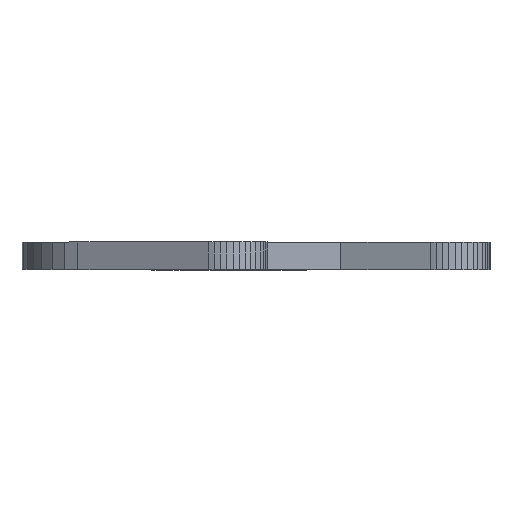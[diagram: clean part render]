
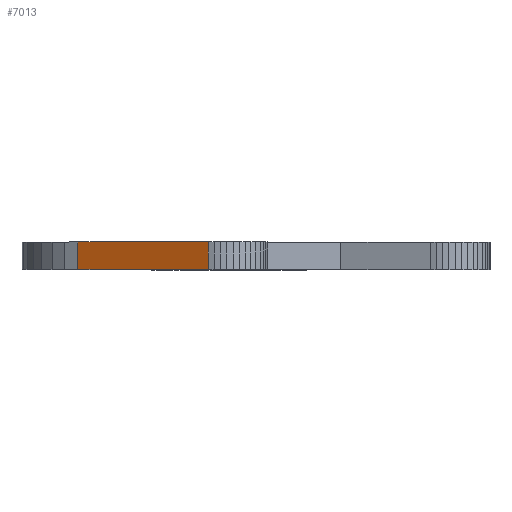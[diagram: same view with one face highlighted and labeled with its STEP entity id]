
A CAD part, top view. The second image highlights one B-rep face of the part: STEP entity #7013.
In plain terms, the highlighted planar face has unit normal (-0.484, 0, 0.875).
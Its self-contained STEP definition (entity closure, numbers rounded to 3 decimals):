
#32 = PLANE('',#33);
#33 = AXIS2_PLACEMENT_3D('',#34,#35,#36);
#34 = CARTESIAN_POINT('',(155.519,76.,-140.029));
#35 = DIRECTION('',(-0.,-1.,-0.));
#36 = DIRECTION('',(0.,0.,-1.));
#1037 = VERTEX_POINT('',#1038);
#1038 = CARTESIAN_POINT('',(154.552,76.,-69.308));
#1052 = PLANE('',#1053);
#1053 = AXIS2_PLACEMENT_3D('',#1054,#1055,#1056);
#1054 = CARTESIAN_POINT('',(156.292,76.,-68.587));
#1055 = DIRECTION('',(-0.383,0.,0.924));
#1056 = DIRECTION('',(-0.924,0.,-0.383));
#1064 = EDGE_CURVE('',#1037,#1065,#1067,.T.);
#1065 = VERTEX_POINT('',#1066);
#1066 = CARTESIAN_POINT('',(116.431,76.,-90.368));
#1067 = SURFACE_CURVE('',#1068,(#1072,#1079),.PCURVE_S1.);
#1068 = LINE('',#1069,#1070);
#1069 = CARTESIAN_POINT('',(154.552,76.,-69.308));
#1070 = VECTOR('',#1071,1.);
#1071 = DIRECTION('',(-0.875,0.,-0.484));
#1072 = PCURVE('',#32,#1073);
#1073 = DEFINITIONAL_REPRESENTATION('',(#1074),#1078);
#1074 = LINE('',#1075,#1076);
#1075 = CARTESIAN_POINT('',(-70.721,-0.966));
#1076 = VECTOR('',#1077,1.);
#1077 = DIRECTION('',(0.484,-0.875));
#1078 = ( GEOMETRIC_REPRESENTATION_CONTEXT(2) 
PARAMETRIC_REPRESENTATION_CONTEXT() REPRESENTATION_CONTEXT('2D SPACE',''
  ) );
#1079 = PCURVE('',#1080,#1085);
#1080 = PLANE('',#1081);
#1081 = AXIS2_PLACEMENT_3D('',#1082,#1083,#1084);
#1082 = CARTESIAN_POINT('',(154.552,76.,-69.308));
#1083 = DIRECTION('',(-0.484,0.,0.875));
#1084 = DIRECTION('',(-0.875,0.,-0.484));
#1085 = DEFINITIONAL_REPRESENTATION('',(#1086),#1090);
#1086 = LINE('',#1087,#1088);
#1087 = CARTESIAN_POINT('',(0.,0.));
#1088 = VECTOR('',#1089,1.);
#1089 = DIRECTION('',(1.,0.));
#1090 = ( GEOMETRIC_REPRESENTATION_CONTEXT(2) 
PARAMETRIC_REPRESENTATION_CONTEXT() REPRESENTATION_CONTEXT('2D SPACE',''
  ) );
#1108 = PLANE('',#1109);
#1109 = AXIS2_PLACEMENT_3D('',#1110,#1111,#1112);
#1110 = CARTESIAN_POINT('',(116.431,76.,-90.368));
#1111 = DIRECTION('',(-0.522,0.,0.853));
#1112 = DIRECTION('',(-0.853,0.,-0.522));
#3411 = PLANE('',#3412);
#3412 = AXIS2_PLACEMENT_3D('',#3413,#3414,#3415);
#3413 = CARTESIAN_POINT('',(155.519,84.,-140.029));
#3414 = DIRECTION('',(-0.,-1.,-0.));
#3415 = DIRECTION('',(0.,0.,-1.));
#6921 = VERTEX_POINT('',#6922);
#6922 = CARTESIAN_POINT('',(154.552,84.,-69.308));
#6943 = EDGE_CURVE('',#1037,#6921,#6944,.T.);
#6944 = SURFACE_CURVE('',#6945,(#6949,#6956),.PCURVE_S1.);
#6945 = LINE('',#6946,#6947);
#6946 = CARTESIAN_POINT('',(154.552,76.,-69.308));
#6947 = VECTOR('',#6948,1.);
#6948 = DIRECTION('',(-0.,1.,-0.));
#6949 = PCURVE('',#1052,#6950);
#6950 = DEFINITIONAL_REPRESENTATION('',(#6951),#6955);
#6951 = LINE('',#6952,#6953);
#6952 = CARTESIAN_POINT('',(1.883,0.));
#6953 = VECTOR('',#6954,1.);
#6954 = DIRECTION('',(0.,-1.));
#6955 = ( GEOMETRIC_REPRESENTATION_CONTEXT(2) 
PARAMETRIC_REPRESENTATION_CONTEXT() REPRESENTATION_CONTEXT('2D SPACE',''
  ) );
#6956 = PCURVE('',#1080,#6957);
#6957 = DEFINITIONAL_REPRESENTATION('',(#6958),#6962);
#6958 = LINE('',#6959,#6960);
#6959 = CARTESIAN_POINT('',(0.,0.));
#6960 = VECTOR('',#6961,1.);
#6961 = DIRECTION('',(0.,-1.));
#6962 = ( GEOMETRIC_REPRESENTATION_CONTEXT(2) 
PARAMETRIC_REPRESENTATION_CONTEXT() REPRESENTATION_CONTEXT('2D SPACE',''
  ) );
#7013 = ADVANCED_FACE('',(#7014),#1080,.T.);
#7014 = FACE_BOUND('',#7015,.T.);
#7015 = EDGE_LOOP('',(#7016,#7017,#7040,#7061));
#7016 = ORIENTED_EDGE('',*,*,#6943,.T.);
#7017 = ORIENTED_EDGE('',*,*,#7018,.T.);
#7018 = EDGE_CURVE('',#6921,#7019,#7021,.T.);
#7019 = VERTEX_POINT('',#7020);
#7020 = CARTESIAN_POINT('',(116.431,84.,-90.368));
#7021 = SURFACE_CURVE('',#7022,(#7026,#7033),.PCURVE_S1.);
#7022 = LINE('',#7023,#7024);
#7023 = CARTESIAN_POINT('',(154.552,84.,-69.308));
#7024 = VECTOR('',#7025,1.);
#7025 = DIRECTION('',(-0.875,0.,-0.484));
#7026 = PCURVE('',#1080,#7027);
#7027 = DEFINITIONAL_REPRESENTATION('',(#7028),#7032);
#7028 = LINE('',#7029,#7030);
#7029 = CARTESIAN_POINT('',(0.,-8.));
#7030 = VECTOR('',#7031,1.);
#7031 = DIRECTION('',(1.,0.));
#7032 = ( GEOMETRIC_REPRESENTATION_CONTEXT(2) 
PARAMETRIC_REPRESENTATION_CONTEXT() REPRESENTATION_CONTEXT('2D SPACE',''
  ) );
#7033 = PCURVE('',#3411,#7034);
#7034 = DEFINITIONAL_REPRESENTATION('',(#7035),#7039);
#7035 = LINE('',#7036,#7037);
#7036 = CARTESIAN_POINT('',(-70.721,-0.966));
#7037 = VECTOR('',#7038,1.);
#7038 = DIRECTION('',(0.484,-0.875));
#7039 = ( GEOMETRIC_REPRESENTATION_CONTEXT(2) 
PARAMETRIC_REPRESENTATION_CONTEXT() REPRESENTATION_CONTEXT('2D SPACE',''
  ) );
#7040 = ORIENTED_EDGE('',*,*,#7041,.F.);
#7041 = EDGE_CURVE('',#1065,#7019,#7042,.T.);
#7042 = SURFACE_CURVE('',#7043,(#7047,#7054),.PCURVE_S1.);
#7043 = LINE('',#7044,#7045);
#7044 = CARTESIAN_POINT('',(116.431,76.,-90.368));
#7045 = VECTOR('',#7046,1.);
#7046 = DIRECTION('',(-0.,1.,-0.));
#7047 = PCURVE('',#1080,#7048);
#7048 = DEFINITIONAL_REPRESENTATION('',(#7049),#7053);
#7049 = LINE('',#7050,#7051);
#7050 = CARTESIAN_POINT('',(43.552,0.));
#7051 = VECTOR('',#7052,1.);
#7052 = DIRECTION('',(0.,-1.));
#7053 = ( GEOMETRIC_REPRESENTATION_CONTEXT(2) 
PARAMETRIC_REPRESENTATION_CONTEXT() REPRESENTATION_CONTEXT('2D SPACE',''
  ) );
#7054 = PCURVE('',#1108,#7055);
#7055 = DEFINITIONAL_REPRESENTATION('',(#7056),#7060);
#7056 = LINE('',#7057,#7058);
#7057 = CARTESIAN_POINT('',(0.,0.));
#7058 = VECTOR('',#7059,1.);
#7059 = DIRECTION('',(0.,-1.));
#7060 = ( GEOMETRIC_REPRESENTATION_CONTEXT(2) 
PARAMETRIC_REPRESENTATION_CONTEXT() REPRESENTATION_CONTEXT('2D SPACE',''
  ) );
#7061 = ORIENTED_EDGE('',*,*,#1064,.F.);
